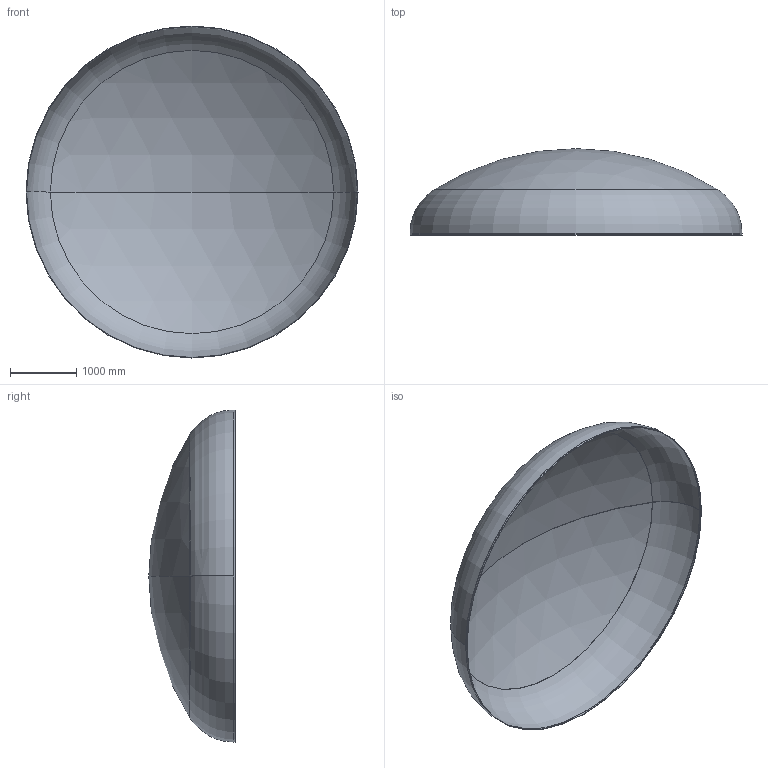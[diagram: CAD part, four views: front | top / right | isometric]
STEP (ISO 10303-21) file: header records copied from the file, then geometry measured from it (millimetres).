
FILE_DESCRIPTION (( 'STEP AP203' ), '1' );
FILE_NAME ('DIN 28013 Korbbogenform_-_Boden DIN 28013 - 5000 x 25 - I - s=7.step', '2016-07-02T00:01:27', ( '' ), ( '' ), 'SwSTEP 2.0', 'SolidWorks 2013', '' );
FILE_SCHEMA (( 'CONFIG_CONTROL_DESIGN' ));
Length unit declared in the file: millimetre
Products named in the file (1): DIN 28013 Korbbogenform_-_Boden DIN 28013 - 5000 x 25 - I - s=7
Bounding box: 5000 x 1299.94 x 5000 mm (x, y, z)
Volume: 192772011.4 mm3; surface area: 55187599.1 mm2
Topology: 1 solids, 1 shells, 13 faces, 24 edges, 14 vertices
Faces by surface type: torus 4, cylinder 4, sphere 4, plane 1
Entity records: 407 total; most frequent: DIRECTION 72, CARTESIAN_POINT 52, ORIENTED_EDGE 48, AXIS2_PLACEMENT_3D 34, EDGE_CURVE 24, CIRCLE 20, EDGE_LOOP 14, VERTEX_POINT 14
